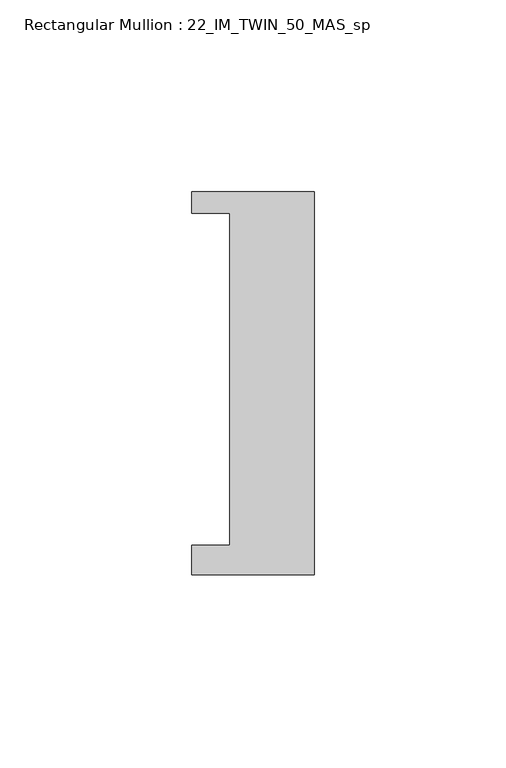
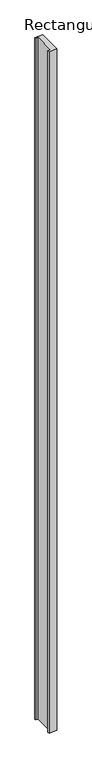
"""IFC4 building model written with IfcOpenShell, lengths in millimetres: member geometry, Rectangular Mullion : 22_IM_TWIN_50_MAS_sp."""

from ifc_helpers import new_model, si_unit, frame, origin, place, context, project, spatial, polyline, outline, extrude, source, transform, mapped, element, save


def rectangular_mullion_22_im_twin_50_mas_sp_229efe52(model_context):
    return source(origin(), model_context, "Body", "SweptSolid", [
        extrude(outline(polyline([(-16.0, 50.0), (16.0, 50.0), (16.0, -50.0), (-16.0, -50.0), (-16.0, -42.3), (-6.0, -42.3), (-6.0, 44.3), (-16.0, 44.3), (-16.0, 50.0)])), frame((0.0, 0.0, -2936.0), z_axis=(0.0, 0.0, 1.0), x_axis=(1.0, 0.0, 0.0)), (0.0, 0.0, 1.0), 2936.0),
    ])


if __name__ == "__main__":
    model = new_model("IFC4")
    model_context = context("Model", 3, world=origin())
    ifc_project = project(units=[si_unit("LENGTHUNIT", "METRE", prefix="MILLI")], contexts=[model_context])
    site = spatial("IfcSite", under=ifc_project)
    building = spatial("IfcBuilding", under=site)
    placement = place(None, origin())
    rectangular_mullion_22_im_twin_50_mas_sp_shape = rectangular_mullion_22_im_twin_50_mas_sp_229efe52(model_context)
    element("IfcMember", 1, ObjectType="Rectangular Mullion : 22_IM_TWIN_50_MAS_sp", at=placement, inside=building, context=model_context, shape_type="MappedRepresentation", body=[
        mapped(rectangular_mullion_22_im_twin_50_mas_sp_shape, transform((0.0, 0.0, 0.0), x_axis=(1.0, 0.0, 0.0), y_axis=(0.0, 1.0, 0.0), z_axis=(0.0, 0.0, 1.0))),
    ])
    save(model, "model.ifc")
